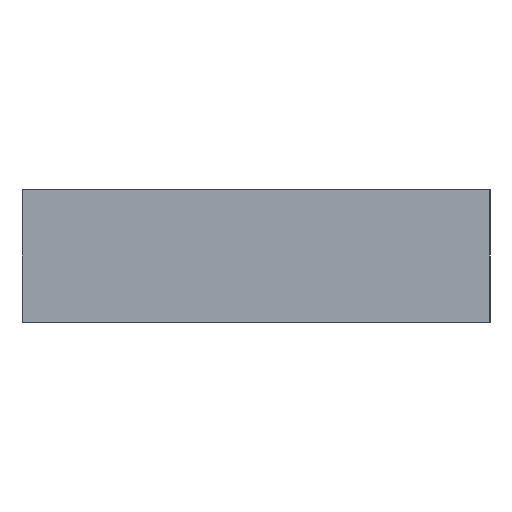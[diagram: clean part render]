
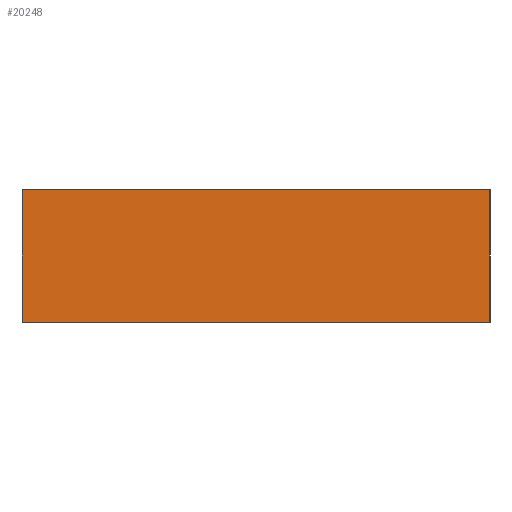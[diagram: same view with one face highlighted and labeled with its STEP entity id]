
A CAD part, left-side view. The second image highlights one B-rep face of the part: STEP entity #20248.
In plain terms, the highlighted planar face has unit normal (-1, 0, 0).
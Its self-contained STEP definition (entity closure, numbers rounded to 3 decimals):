
#725=LINE('',#28111,#845);
#730=LINE('',#28121,#850);
#731=LINE('',#28123,#851);
#732=LINE('',#28125,#852);
#845=VECTOR('',#23609,1000.);
#850=VECTOR('',#23616,1000.);
#851=VECTOR('',#23619,1000.);
#852=VECTOR('',#23620,1000.);
#978=ORIENTED_EDGE('',*,*,#3617,.T.);
#979=ORIENTED_EDGE('',*,*,#3611,.F.);
#980=ORIENTED_EDGE('',*,*,#3616,.F.);
#981=ORIENTED_EDGE('',*,*,#3618,.T.);
#3611=EDGE_CURVE('',#4931,#4932,#725,.F.);
#3616=EDGE_CURVE('',#4935,#4931,#730,.T.);
#3617=EDGE_CURVE('',#4936,#4932,#731,.T.);
#3618=EDGE_CURVE('',#4935,#4936,#732,.T.);
#4931=VERTEX_POINT('',#28110);
#4932=VERTEX_POINT('',#28112);
#4935=VERTEX_POINT('',#28120);
#4936=VERTEX_POINT('',#28124);
#7211=EDGE_LOOP('',(#978,#979,#980,#981));
#9415=FACE_BOUND('',#7211,.T.);
#11622=PLANE('',#21407);
#20248=ADVANCED_FACE('',(#9415),#11622,.F.);
#21407=AXIS2_PLACEMENT_3D('',#28122,#23617,#23618);
#23609=DIRECTION('',(0.,-1.,0.));
#23616=DIRECTION('',(0.,0.,-1.));
#23617=DIRECTION('',(1.,0.,0.));
#23618=DIRECTION('',(0.,0.,-1.));
#23619=DIRECTION('',(0.,0.,-1.));
#23620=DIRECTION('',(0.,1.,0.));
#28110=CARTESIAN_POINT('',(-67.5,-35.,0.2));
#28111=CARTESIAN_POINT('',(-67.5,35.,0.2));
#28112=CARTESIAN_POINT('',(-67.5,35.,0.2));
#28120=CARTESIAN_POINT('',(-67.5,-35.,20.));
#28121=CARTESIAN_POINT('',(-67.5,-35.,20.));
#28122=CARTESIAN_POINT('',(-67.5,35.,20.));
#28123=CARTESIAN_POINT('',(-67.5,35.,20.));
#28124=CARTESIAN_POINT('',(-67.5,35.,20.));
#28125=CARTESIAN_POINT('',(-67.5,0.,20.));
